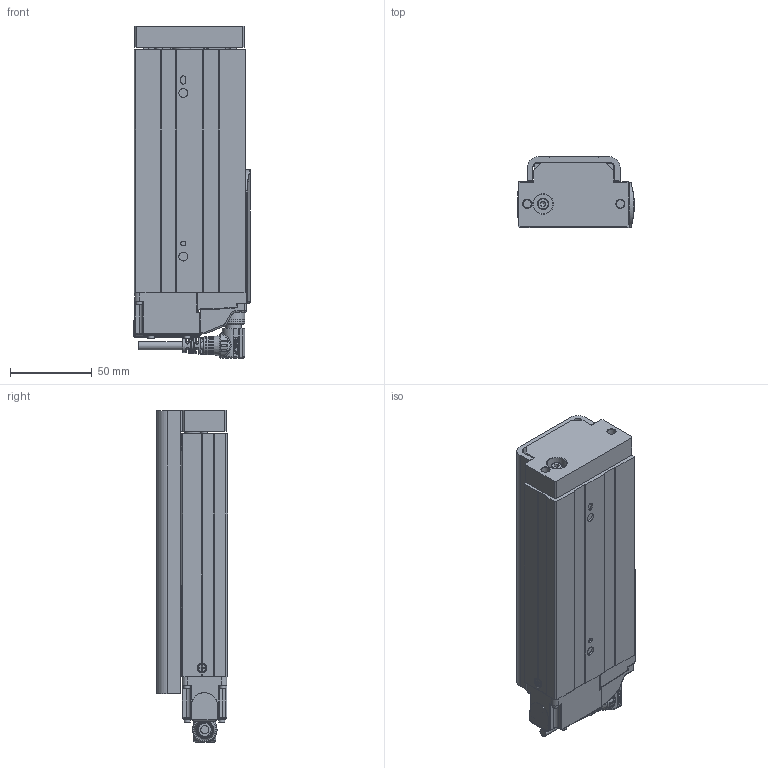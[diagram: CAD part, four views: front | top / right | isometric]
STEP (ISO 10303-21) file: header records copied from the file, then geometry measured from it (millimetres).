
FILE_DESCRIPTION(/* description */ ('STEP AP203'),/* implementation_level */ '2;1');
FILE_NAME(/* name */ 'D:\暫\2025.02.06 CSG 3D\CSG25-B\CSG25-S100-B-WR.stp',/* time_stamp */ '2025-02-08T10:40:49+08:00',/* author */ ('T10033'),/* organization */ (''),/* preprocessor_version */ 'ST-DEVELOPER v18.1',/* originating_system */ 'Autodesk Inventor 2020',/* authorisation */ '');
FILE_SCHEMA (('CONFIG_CONTROL_DESIGN'));
Products named in the file (25): CSG25-50行程-煞車; ©T©wªO-·¥­­¾×ª
O4-M2¤ú; M12 -14PIN  ªOºÝ-²Ä¤@ºØ
³W®æ; countersunk flat head cross recess screw_iso_ISO 7046-1 - M2.5 x 4 - 
Z - 4N; ¶ì½¦ºÝ»-L¼Ë¦¡(TOYO)-°
t¦XPCB(·Ù¨®¥Î)-DF3±µÀYª½
±µ©ñ¤Jª©; IS 2269 - M2 x 10; ISO 4762 - M2.5 x 6ISO; PCB; 43T34 TFSDR_Shrinkwrap_1; M12-14PIN 線端90度接頭-05中繼線; 4T3T6WS34TE35Y; countersunk flat head cross recess screw_iso_ISO 7046-1 - M2.5 x 4 - 
Z - 4N_1; ©T©wªO-·¥­­¾×ª
O4-M2¤ú_1; socket head cap screw_iso_ISO 4762 M2.5 x 6 - 6N; socket head cap screw_iso_ISO 4762 M2.5 x 8 - 8N; socket head cap screw_iso_ISO 4762 M2 x 12 - 12N; M12 -14PIN  ªOºÝ-²Ä¤@ºØ
³W®æ_1; CSG25-50¥»Åé3ª©-ªo¤Õ
½Õ¾ã¨¤«×; CSG25-Carriage-newtype; Solid1-2; socket head cap screw_iso_ISO 4762 M2.5 x 5 - 5N; 12003-000221-­×§ï; 22024-000496; CNS 3932 - M 4 x 0.7 x 12; CNS 4558 - M5 x 0.8 x 12
Assembly tree (36 placements, depth 3):
  CSG25-50行程-煞車
    ©T©wªO-·¥­­¾×ª
O4-M2¤ú
    M12 -14PIN  ªOºÝ-²Ä¤@ºØ
³W®æ
    countersunk flat head cross recess screw_iso_ISO 7046-1 - M2.5 x 4 - 
Z - 4N
    ¶ì½¦ºÝ»-L¼Ë¦¡(TOYO)-°
t¦XPCB(·Ù¨®¥Î)-DF3±µÀYª½
±µ©ñ¤Jª©
    IS 2269 - M2 x 10  x2
    ISO 4762 - M2.5 x 6ISO  x2
    PCB
    43T34 TFSDR_Shrinkwrap_1
    M12-14PIN 線端90度接頭-05中繼線
    4T3T6WS34TE35Y
      socket head cap screw_iso_ISO 4762 M2.5 x 8 - 8N  x8
      countersunk flat head cross recess screw_iso_ISO 7046-1 - M2.5 x 4 - 
Z - 4N_1
      ©T©wªO-·¥­­¾×ª
O4-M2¤ú_1
      socket head cap screw_iso_ISO 4762 M2.5 x 6 - 6N  x2
      socket head cap screw_iso_ISO 4762 M2 x 12 - 12N  x2
      M12 -14PIN  ªOºÝ-²Ä¤@ºØ
³W®æ_1
      CSG25-50¥»Åé3ª©-ªo¤Õ
½Õ¾ã¨¤«×
      CSG25-Carriage-newtype
      Solid1-2
      socket head cap screw_iso_ISO 4762 M2.5 x 5 - 5N
      12003-000221-­×§ï
      22024-000496
      CNS 3932 - M 4 x 0.7 x 12
      CNS 4558 - M5 x 0.8 x 12  x2
Bounding box: 71.25 x 43.5 x 203 mm (x, y, z)
Volume: 429038.9 mm3; surface area: 108884.7 mm2
Topology: 50 solids, 58 shells, 3187 faces, 8672 edges, 5730 vertices
Faces by surface type: plane 1589, cylinder 626, bspline 482, cone 334, torus 146, sphere 10
Full cylindrical faces by diameter (mm): 0.6 x28, 0.65 x14, 1 x14, 1.567 x1, 1.6 x4, 2 x6, 2.05 x5, 2.5 x19, 2.9 x2, 3 x3, 3.8 x10, 4 x1, 4.134 x8, 4.5 x15, 4.7 x2, 5 x7, 5.3 x2, 5.4 x4, 5.5 x4, 6 x3, 7 x1, 8 x1, 8.9 x1, 9 x12, 9.5 x2, 9.6 x1, 10 x6, 10.4 x2, 10.5 x4, 10.9 x1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
Entity records: 121534 total; most frequent: CARTESIAN_POINT 44664, ORIENTED_EDGE 16076, DIRECTION 14901, EDGE_CURVE 8056, AXIS2_PLACEMENT_3D 5399, VERTEX_POINT 5351, LINE 4103, VECTOR 4103
